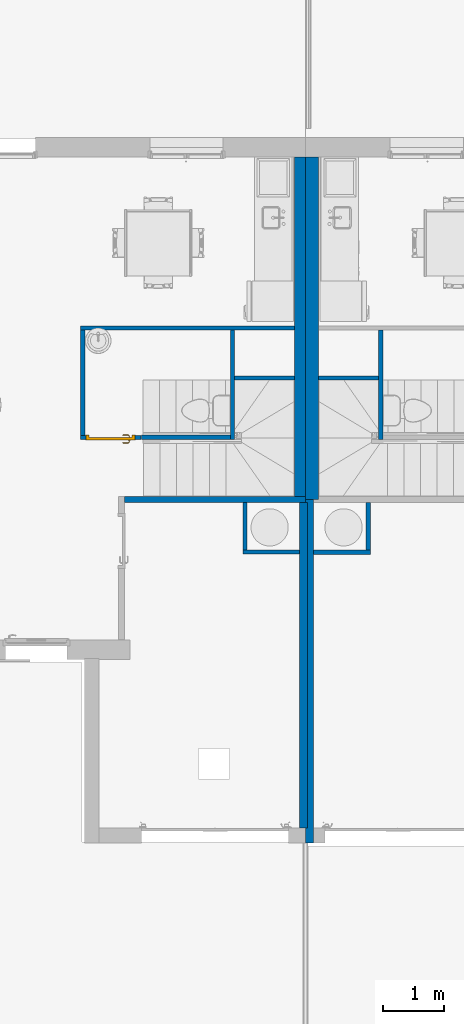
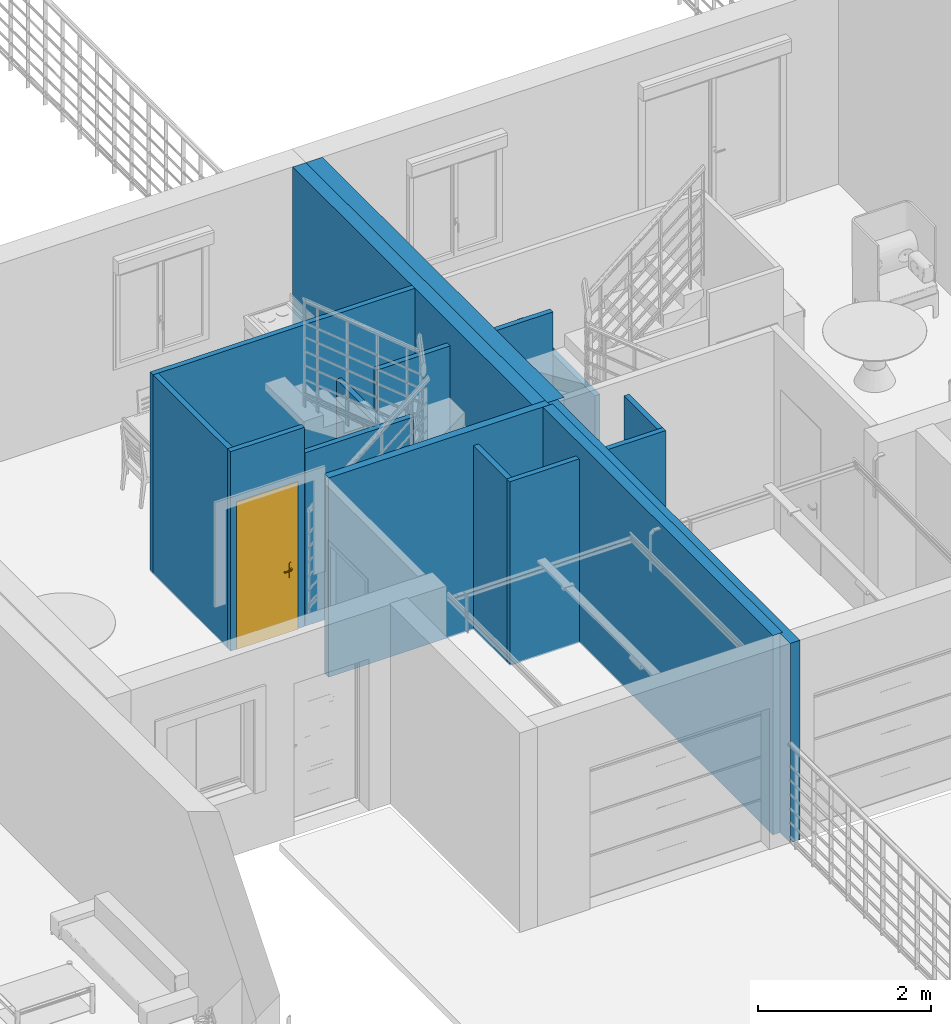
# One storey, part 17 of 30: 17 walls, 1 door, 1 opening.
"""IFC2X3 building model written with IfcOpenShell, lengths in metres."""

from ifc_helpers import new_model, entity, si_unit, converted_unit, derived_unit, direction, frame, frame_2d, origin, place, context, subcontext, project, spatial, polyline, rectangle, outline, extrude, faceted_brep, source, transform, mapped, material, material_list, layer, layer_set, layer_usage, type_object, type_shapes, element, fill, save


model = new_model("IFC2X3")

# Units and contexts
model_context = context("Model", 3, precision=1e-05, world=origin(), true_north=direction((6.12303176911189e-17, 1.0)))
body_context = subcontext(model_context, "Body", "Model", "MODEL_VIEW")
ifc_project = project(units=[si_unit("LENGTHUNIT", "METRE"), si_unit("AREAUNIT", "SQUARE_METRE"), si_unit("VOLUMEUNIT", "CUBIC_METRE"), converted_unit("PLANEANGLEUNIT", "DEGREE", entity("IfcRatioMeasure", 0.0174532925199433), si_unit("PLANEANGLEUNIT", "RADIAN"), dimensions=[0, 0, 0, 0, 0, 0, 0]), si_unit("MASSUNIT", "GRAM", prefix="KILO"), derived_unit("MASSDENSITYUNIT", [(si_unit("MASSUNIT", "GRAM", prefix="KILO"), 1), (si_unit("LENGTHUNIT", "METRE"), -3)]), si_unit("TIMEUNIT", "SECOND"), si_unit("FREQUENCYUNIT", "HERTZ"), si_unit("THERMODYNAMICTEMPERATUREUNIT", "DEGREE_CELSIUS"), derived_unit("THERMALTRANSMITTANCEUNIT", [(si_unit("MASSUNIT", "GRAM", prefix="KILO"), 1), (si_unit("THERMODYNAMICTEMPERATUREUNIT", "KELVIN"), -1), (si_unit("TIMEUNIT", "SECOND"), -3)]), derived_unit("VOLUMETRICFLOWRATEUNIT", [(si_unit("LENGTHUNIT", "METRE"), 3), (si_unit("TIMEUNIT", "SECOND"), -1)]), si_unit("ELECTRICCURRENTUNIT", "AMPERE"), si_unit("ELECTRICVOLTAGEUNIT", "VOLT"), si_unit("POWERUNIT", "WATT"), si_unit("FORCEUNIT", "NEWTON", prefix="KILO"), si_unit("ILLUMINANCEUNIT", "LUX"), si_unit("LUMINOUSFLUXUNIT", "LUMEN"), si_unit("LUMINOUSINTENSITYUNIT", "CANDELA"), derived_unit("USERDEFINED", [(si_unit("MASSUNIT", "GRAM", prefix="KILO"), -1), (si_unit("LENGTHUNIT", "METRE"), -2), (si_unit("TIMEUNIT", "SECOND"), 3), (si_unit("LUMINOUSFLUXUNIT", "LUMEN"), 1)]), derived_unit("LINEARVELOCITYUNIT", [(si_unit("LENGTHUNIT", "METRE"), 1), (si_unit("TIMEUNIT", "SECOND"), -1)]), si_unit("PRESSUREUNIT", "PASCAL"), derived_unit("USERDEFINED", [(si_unit("LENGTHUNIT", "METRE"), -2), (si_unit("MASSUNIT", "GRAM", prefix="KILO"), 1), (si_unit("TIMEUNIT", "SECOND"), -2)])], contexts=[model_context])

# Site, building, storey
site_placement = place(None, origin())
site = spatial("IfcSite", under=ifc_project, at=site_placement, Name="Surface", CompositionType="ELEMENT")
building_placement = place(site_placement, origin())
building = spatial("IfcBuilding", under=site, at=building_placement, CompositionType="ELEMENT")
storey_placement = place(building_placement, origin())
storey = spatial("IfcBuildingStorey", under=building, at=storey_placement, Name="Plan des fondations  Maisons 1 et 2", CompositionType="ELEMENT", Elevation=0.0)

# Walls
ifc_material_1 = material(Name="Enduit blanc cassé2")
ifc_layer_1 = layer(ifc_material_1, 0.02)
ifc_material_2 = material(Name="Parpaing")
ifc_layer_2 = layer(ifc_material_2, 0.1)
ifc_material_3 = material(Name="Isolant")
ifc_layer_3 = layer(ifc_material_3, 0.1)
ifc_layer_set_1 = layer_set([ifc_layer_1, ifc_layer_2, ifc_layer_3], Name="Mur de base:Ext. Parpaing 10 + Isolant 10 enduit blanc cassé")
ifc_layer_usage_1 = layer_usage(ifc_layer_set_1, "AXIS2", "POSITIVE", -0.11)
wall_type_1 = type_object("IfcWallType", Name="Mur de base:Ext. Parpaing 10 + Isolant 10 enduit blanc cassé", PredefinedType="STANDARD", material=ifc_layer_set_1)
wall_1_placement = place(building_placement, frame((83.8167857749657, 92.1475239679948, 0.0), z_axis=(0.0, 0.0, 1.0), x_axis=(0.0, -1.0, 0.0)))
element("IfcWallStandardCase", 1, at=wall_1_placement, inside=storey, type_object=wall_type_1, material=ifc_layer_usage_1, Name="Mur de base:Ext. Parpaing 10 + Isolant 10 enduit blanc cassé", ObjectType="Mur de base:Ext. Parpaing 10 + Isolant 10 enduit blanc cassé", context=body_context, shape_type="SweptSolid", body=[
    extrude(rectangle(XDim=5.60000000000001, YDim=0.219999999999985, at=frame_2d((2.8, 0.0), x_axis=(-1.0, 0.0))), origin(), (0.0, 0.0, 1.0), 2.82),
])
ifc_layer_usage_2 = layer_usage(ifc_layer_set_1, "AXIS2", "NEGATIVE", 0.11)
wall_2_placement = place(storey_placement, frame((83.6410189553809, 92.1475239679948, 0.0), z_axis=(0.0, 0.0, 1.0), x_axis=(0.0, -1.0, 0.0)))
element("IfcWallStandardCase", 2, at=wall_2_placement, inside=storey, type_object=wall_type_1, material=ifc_layer_usage_2, Name="Mur de base:Ext. Parpaing 10 + Isolant 10 enduit blanc cassé", ObjectType="Mur de base:Ext. Parpaing 10 + Isolant 10 enduit blanc cassé", context=body_context, shape_type="SweptSolid", body=[
    extrude(rectangle(XDim=5.60000000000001, YDim=0.219999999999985, at=frame_2d((2.8, 0.0), x_axis=(-1.0, 0.0))), origin(), (0.0, 0.0, 1.0), 2.82),
])
ifc_material_4 = material(Name="Peinture - Blanc")
ifc_layer_4 = layer(ifc_material_4, 0.1)
ifc_layer_set_2 = layer_set([ifc_layer_4], Name="Mur de base:Int.  Platre 100 mm en blanc 2")
ifc_layer_usage_3 = layer_usage(ifc_layer_set_2, "AXIS2", "POSITIVE", -0.05)
wall_type_2 = type_object("IfcWallType", Name="Mur de base:Int.  Platre 100 mm en blanc 2", PredefinedType="STANDARD", material=ifc_layer_set_2)
wall_3_placement = place(storey_placement, frame((80.7510189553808, 86.5475239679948, 0.0)))
element("IfcWallStandardCase", 3, at=wall_3_placement, inside=storey, type_object=wall_type_2, material=ifc_layer_usage_3, Name="Mur de base:Int.  Platre 100 mm en blanc 2", ObjectType="Mur de base:Int.  Platre 100 mm en blanc 2", context=body_context, shape_type="SweptSolid", body=[
    extrude(outline(polyline([(2.96076681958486, -0.0499999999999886), (2.96076681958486, 0.0), (2.95576681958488, 0.0), (2.95576681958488, 0.050000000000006), (0.0, 0.050000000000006), (0.0, -0.0499999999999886), (1.93500000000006, -0.0499999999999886), (2.00500000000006, -0.0499999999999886), (2.86500000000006, -0.0499999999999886), (2.96076681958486, -0.0499999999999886)])), origin(), (0.0, 0.0, 1.0), 2.82),
])
ifc_layer_5 = layer(ifc_material_1, 0.015)
ifc_layer_6 = layer(ifc_material_2, 0.1)
ifc_layer_7 = layer(ifc_material_1, 0.015)
ifc_layer_set_3 = layer_set([ifc_layer_5, ifc_layer_6, ifc_layer_7], Name="Mur de base:Ext. Parpaing 10 + 2 x 1.5 2")
ifc_layer_usage_4 = layer_usage(ifc_layer_set_3, "AXIS2", "NEGATIVE", 0.065)
wall_type_3 = type_object("IfcWallType", Name="Mur de base:Ext. Parpaing 10 + 2 x 1.5 2", PredefinedType="STANDARD", material=ifc_layer_set_3)
wall_4_placement = place(building_placement, frame((83.7767857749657, 86.5475239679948, 0.0), z_axis=(0.0, 0.0, 1.0), x_axis=(0.0, -1.0, 0.0)))
element("IfcWallStandardCase", 4, at=wall_4_placement, inside=storey, type_object=wall_type_3, material=ifc_layer_usage_4, Name="Mur de base:Ext. Parpaing 10 + 2 x 1.5 2", ObjectType="Mur de base:Ext. Parpaing 10 + 2 x 1.5 2", context=body_context, shape_type="SweptSolid", body=[
    extrude(rectangle(XDim=5.61999999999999, YDim=0.130000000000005, at=frame_2d((2.80999999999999, 0.0), x_axis=(-1.0, 0.0))), origin(), (0.0, 0.0, 1.0), 2.82),
])
ifc_layer_usage_5 = layer_usage(ifc_layer_set_3, "AXIS2", "POSITIVE", -0.065)
wall_5_placement = place(storey_placement, frame((83.6810189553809, 86.4975239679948, 0.0), z_axis=(0.0, 0.0, 1.0), x_axis=(0.0, -1.0, 0.0)))
element("IfcWallStandardCase", 5, at=wall_5_placement, inside=storey, type_object=wall_type_3, material=ifc_layer_usage_5, Name="Mur de base:Ext. Parpaing 10 + 2 x 1.5 2", ObjectType="Mur de base:Ext. Parpaing 10 + 2 x 1.5 2", context=body_context, shape_type="SweptSolid", body=[
    extrude(rectangle(XDim=5.32999999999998, YDim=0.130000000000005, at=frame_2d((2.66499999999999, 0.0), x_axis=(-1.0, 0.0))), origin(), (0.0, 0.0, 1.0), 2.82),
])
ifc_layer_8 = layer(ifc_material_4, 0.07)
ifc_layer_set_4 = layer_set([ifc_layer_8], Name="Mur de base:Int.  Platre 70 mm en blanc")
ifc_layer_usage_6 = layer_usage(ifc_layer_set_4, "AXIS2", "NEGATIVE", 0.035)
wall_type_4 = type_object("IfcWallType", Name="Mur de base:Int.  Platre 70 mm en blanc", PredefinedType="STANDARD", material=ifc_layer_set_4)
wall_6_placement = place(storey_placement, frame((84.9417857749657, 87.5275239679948, 0.0), z_axis=(0.0, 0.0, 1.0), x_axis=(0.0, 1.0, 0.0)))
element("IfcWallStandardCase", 6, at=wall_6_placement, inside=storey, type_object=wall_type_4, material=ifc_layer_usage_6, Name="Mur de base:Int.  Platre 70 mm en blanc", ObjectType="Mur de base:Int.  Platre 70 mm en blanc", context=body_context, shape_type="SweptSolid", body=[
    extrude(rectangle(XDim=1.78999999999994, YDim=0.0699999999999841, at=frame_2d((0.89499999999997, 0.0), x_axis=(-1.0, 0.0))), origin(), (0.0, 0.0, 1.0), 1.9),
])
ifc_layer_usage_7 = layer_usage(ifc_layer_set_4, "AXIS2", "NEGATIVE", 0.035)
wall_7_placement = place(building_placement, frame((84.9067857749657, 88.5346045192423, 0.0), z_axis=(0.0, 0.0, 1.0), x_axis=(-1.0, 0.0, 0.0)))
element("IfcWallStandardCase", 7, at=wall_7_placement, inside=storey, type_object=wall_type_4, material=ifc_layer_usage_7, Name="Mur de base:Int.  Platre 70 mm en blanc", ObjectType="Mur de base:Int.  Platre 70 mm en blanc", context=body_context, shape_type="SweptSolid", body=[
    extrude(rectangle(XDim=0.980000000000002, YDim=0.0699999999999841, at=frame_2d((0.490000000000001, 0.0), x_axis=(-1.0, 0.0))), origin(), (0.0, 0.0, 1.0), 2.5),
])
ifc_layer_usage_8 = layer_usage(ifc_layer_set_4, "AXIS2", "NEGATIVE", 0.035)
wall_8_placement = place(building_placement, frame((83.8417857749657, 85.6825239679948, 0.0)))
element("IfcWallStandardCase", 8, at=wall_8_placement, inside=storey, type_object=wall_type_4, material=ifc_layer_usage_8, Name="Mur de base:Int.  Platre 70 mm en blanc", ObjectType="Mur de base:Int.  Platre 70 mm en blanc", context=body_context, shape_type="SweptSolid", body=[
    extrude(rectangle(XDim=0.929999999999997, YDim=0.0699999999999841, at=frame_2d((0.464999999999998, 0.0), x_axis=(-1.0, 0.0))), origin(), (0.0, 0.0, 1.0), 2.6),
])
ifc_layer_usage_9 = layer_usage(ifc_layer_set_4, "AXIS2", "NEGATIVE", 0.035)
wall_9_placement = place(building_placement, frame((84.7367857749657, 85.7175239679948, 0.0), z_axis=(0.0, 0.0, 1.0), x_axis=(0.0, 1.0, 0.0)))
element("IfcWallStandardCase", 9, at=wall_9_placement, inside=storey, type_object=wall_type_4, material=ifc_layer_usage_9, Name="Mur de base:Int.  Platre 70 mm en blanc", ObjectType="Mur de base:Int.  Platre 70 mm en blanc", context=body_context, shape_type="SweptSolid", body=[
    extrude(rectangle(XDim=0.779999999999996, YDim=0.0699999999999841, at=frame_2d((0.389999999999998, 0.0), x_axis=(-1.0, 0.0))), origin(), (0.0, 0.0, 1.0), 2.6),
])
ifc_layer_usage_10 = layer_usage(ifc_layer_set_4, "AXIS2", "POSITIVE", -0.035)
wall_10_placement = place(storey_placement, frame((83.5310189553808, 89.3525239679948, 0.0), z_axis=(0.0, 0.0, 1.0), x_axis=(-1.0, 0.0, 0.0)))
element("IfcWallStandardCase", 10, at=wall_10_placement, inside=storey, type_object=wall_type_4, material=ifc_layer_usage_10, Name="Mur de base:Int.  Platre 70 mm en blanc", ObjectType="Mur de base:Int.  Platre 70 mm en blanc", context=body_context, shape_type="SweptSolid", body=[
    extrude(rectangle(XDim=3.50211659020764, YDim=0.0699999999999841, at=frame_2d((1.75105829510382, -7.45931094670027e-16), x_axis=(-1.0, 0.0))), origin(), (0.0, 0.0, 1.0), 2.82),
])
ifc_layer_usage_11 = layer_usage(ifc_layer_set_4, "AXIS2", "POSITIVE", -0.035)
wall_11_placement = place(storey_placement, frame((80.0639023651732, 87.5943952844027, 0.0), z_axis=(0.0, 0.0, 1.0), x_axis=(0.0, 1.0, 0.0)))
element("IfcWallStandardCase", 11, at=wall_11_placement, inside=storey, type_object=wall_type_4, material=ifc_layer_usage_11, Name="Mur de base:Int.  Platre 70 mm en blanc", ObjectType="Mur de base:Int.  Platre 70 mm en blanc", context=body_context, shape_type="SweptSolid", body=[
    extrude(rectangle(XDim=1.72312868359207, YDim=0.0699999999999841, at=frame_2d((0.861564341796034, 0.0), x_axis=(-1.0, 0.0))), origin(), (0.0, 0.0, 1.0), 2.82),
])
ifc_layer_usage_12 = layer_usage(ifc_layer_set_4, "AXIS2", "POSITIVE", -0.035)
wall_12_placement = place(storey_placement, frame((82.4810189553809, 87.5625239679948, 0.0), z_axis=(0.0, 0.0, 1.0), x_axis=(-1.0, 0.0, 0.0)))
element("IfcWallStandardCase", 12, at=wall_12_placement, inside=storey, type_object=wall_type_4, material=ifc_layer_usage_12, Name="Mur de base:Int.  Platre 70 mm en blanc", ObjectType="Mur de base:Int.  Platre 70 mm en blanc", context=body_context, shape_type="SweptSolid", body=[
    extrude(rectangle(XDim=1.45171659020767, YDim=0.0699999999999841, at=frame_2d((0.725858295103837, -3.03576608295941e-15), x_axis=(-1.0, 0.0))), origin(), (0.0, 0.0, 1.0), 2.45350535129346),
])
ifc_layer_usage_13 = layer_usage(ifc_layer_set_4, "AXIS2", "POSITIVE", -0.035)
wall_13_placement = place(storey_placement, frame((82.5160189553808, 87.5275239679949, 0.0), z_axis=(0.0, 0.0, 1.0), x_axis=(0.0, 1.0, 0.0)))
element("IfcWallStandardCase", 13, at=wall_13_placement, inside=storey, type_object=wall_type_4, material=ifc_layer_usage_13, Name="Mur de base:Int.  Platre 70 mm en blanc", ObjectType="Mur de base:Int.  Platre 70 mm en blanc", context=body_context, shape_type="SweptSolid", body=[
    extrude(rectangle(XDim=1.78999999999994, YDim=0.0699999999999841, at=frame_2d((0.89499999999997, 0.0), x_axis=(-1.0, 0.0))), origin(), (0.0, 0.0, 1.0), 1.9),
])

# Wall, opening, door
ifc_layer_usage_14 = layer_usage(ifc_layer_set_4, "AXIS2", "POSITIVE", -0.035)
wall_14_placement = place(storey_placement, frame((81.0193023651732, 87.5593952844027, 0.0), z_axis=(0.0, 0.0, 1.0), x_axis=(-1.0, 0.0, 0.0)))
wall_14 = element("IfcWallStandardCase", 14, at=wall_14_placement, inside=storey, type_object=wall_type_4, material=ifc_layer_usage_14, Name="Mur de base:Int.  Platre 70 mm en blanc", ObjectType="Mur de base:Int.  Platre 70 mm en blanc", context=body_context, shape_type="SweptSolid", body=[
    extrude(rectangle(XDim=0.990399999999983, YDim=0.0699999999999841, at=frame_2d((0.495199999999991, -2.43208231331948e-15), x_axis=(-1.0, 0.0))), origin(), (0.0, 0.0, 1.0), 2.82),
])
opening_placement = place(wall_14_placement, frame((0.100399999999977, -0.0350000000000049, 0.0)))
opening = element("IfcOpeningElement", 15, at=opening_placement, cuts=wall_14, Name="FR_Simple (R):73 x 204 - (70):1", ObjectType="Opening", context=body_context, shape_type="SweptSolid", body=[
    extrude(rectangle(XDim=2.075, YDim=0.799999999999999, at=frame_2d((1.0375, 0.4), x_axis=(1.0, 0.0))), frame((0.0, 0.0, 0.0), z_axis=(0.0, 1.0, 0.0), x_axis=(0.0, 0.0, 1.0)), (0.0, 0.0, 1.0), 0.07),
])
ifc_material_5 = material(Name="Poignée Porte")
ifc_material_6 = material(Name="Dormants Portes")
ifc_material_7 = material(Name="Panneaux Portes")
ifc_material_list_1 = material_list([ifc_material_5, ifc_material_6, ifc_material_7])
ifc_material_list_2 = material_list([ifc_material_5, ifc_material_6, ifc_material_7])
door_style = type_object("IfcDoorStyle", Name="73 x 204 - (70)", ConstructionType="NOTDEFINED", OperationType="SINGLE_SWING_RIGHT", ParameterTakesPrecedence=False, Sizeable=False, material=ifc_material_list_2)
shared_shape = source(origin(), body_context, "Body", "Brep", [
    faceted_brep([(0.710000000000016, -0.0130000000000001, 0.764641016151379), (0.720352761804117, -0.0130000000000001, 0.766003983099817), (0.730000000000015, -0.0130000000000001, 0.770000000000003), (0.730000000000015, -0.0130000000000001, 0.980000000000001), (0.720352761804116, -0.0130000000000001, 0.983996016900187), (0.710000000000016, -0.0130000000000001, 0.985358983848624), (0.699647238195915, -0.0130000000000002, 0.983996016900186), (0.690000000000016, -0.0130000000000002, 0.980000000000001), (0.690000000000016, -0.0130000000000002, 0.770000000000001), (0.699647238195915, -0.0130000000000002, 0.766003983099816), (0.730000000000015, -0.00800000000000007, 0.980000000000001), (0.730000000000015, -0.00800000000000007, 0.770000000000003), (0.720352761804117, -0.0080000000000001, 0.766003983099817), (0.710000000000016, -0.00800000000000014, 0.764641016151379), (0.699647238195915, -0.00800000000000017, 0.766003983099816), (0.690000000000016, -0.00800000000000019, 0.770000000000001), (0.690000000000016, -0.00800000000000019, 0.980000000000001), (0.699647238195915, -0.00800000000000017, 0.983996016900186), (0.710000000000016, -0.00800000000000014, 0.985358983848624), (0.720352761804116, -0.0080000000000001, 0.983996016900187)], [[[0, 1, 2, 3, 4, 5, 6, 7, 8, 9]], [[10, 11, 12, 13, 14, 15, 16, 17, 18, 19]], [[1, 12, 11, 2]], [[0, 13, 12, 1]], [[9, 14, 13, 0]], [[9, 8, 15, 14]], [[15, 8, 7, 16]], [[6, 17, 16, 7]], [[5, 18, 17, 6]], [[4, 19, 18, 5]], [[4, 3, 10, 19]], [[10, 3, 2, 11]]]),
    faceted_brep([(0.730000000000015, 0.0319999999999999, 0.770000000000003), (0.730000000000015, 0.0319999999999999, 0.980000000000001), (0.720352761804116, 0.0319999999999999, 0.983996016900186), (0.710000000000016, 0.0319999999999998, 0.985358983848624), (0.699647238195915, 0.0319999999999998, 0.983996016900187), (0.690000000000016, 0.0319999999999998, 0.980000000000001), (0.690000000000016, 0.0319999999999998, 0.770000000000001), (0.699647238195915, 0.0319999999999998, 0.766003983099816), (0.710000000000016, 0.0319999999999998, 0.764641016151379), (0.720352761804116, 0.0319999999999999, 0.766003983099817), (0.710000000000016, 0.0369999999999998, 0.985358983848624), (0.720352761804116, 0.0369999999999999, 0.983996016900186), (0.730000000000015, 0.0369999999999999, 0.980000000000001), (0.730000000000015, 0.0369999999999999, 0.770000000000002), (0.720352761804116, 0.0369999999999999, 0.766003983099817), (0.710000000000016, 0.0369999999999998, 0.764641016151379), (0.699647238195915, 0.0369999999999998, 0.766003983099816), (0.690000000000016, 0.0369999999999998, 0.770000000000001), (0.690000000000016, 0.0369999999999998, 0.980000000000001), (0.699647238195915, 0.0369999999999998, 0.983996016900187)], [[[0, 1, 2, 3, 4, 5, 6, 7, 8, 9]], [[10, 11, 12, 13, 14, 15, 16, 17, 18, 19]], [[4, 19, 18, 5]], [[3, 10, 19, 4]], [[2, 11, 10, 3]], [[2, 1, 12, 11]], [[12, 1, 0, 13]], [[9, 14, 13, 0]], [[8, 15, 14, 9]], [[7, 16, 15, 8]], [[7, 6, 17, 16]], [[17, 6, 5, 18]]]),
    faceted_brep([(0.707974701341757, -0.0130000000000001, 0.907780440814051), (0.712025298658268, -0.0130000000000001, 0.907780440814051), (0.716000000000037, -0.0130000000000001, 0.906999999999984), (0.716000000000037, -0.0130000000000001, 0.892999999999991), (0.712025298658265, -0.0130000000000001, 0.892219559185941), (0.707974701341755, -0.0130000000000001, 0.89221955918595), (0.703999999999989, -0.0130000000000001, 0.893000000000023), (0.703999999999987, -0.0130000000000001, 0.90699999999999), (0.712025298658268, -0.0390045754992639, 0.907780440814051), (0.716000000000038, -0.0406509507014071, 0.906999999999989), (0.707974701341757, -0.0373267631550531, 0.907780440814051), (0.694298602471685, -0.0510028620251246, 0.907780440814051), (0.695976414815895, -0.0550534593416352, 0.907780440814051), (0.609142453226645, -0.0550534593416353, 0.90778044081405), (0.610820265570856, -0.0510028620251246, 0.90778044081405), (0.604342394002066, -0.0445249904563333, 0.90778044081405), (0.601478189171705, -0.0473891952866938, 0.90778044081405), (0.703999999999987, -0.0356803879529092, 0.90699999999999), (0.703999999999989, -0.0356803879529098, 0.893000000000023), (0.707974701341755, -0.0373267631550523, 0.89221955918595), (0.712025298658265, -0.0390045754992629, 0.89221955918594), (0.695976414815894, -0.0550534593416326, 0.89221955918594), (0.694298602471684, -0.0510028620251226, 0.89221955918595), (0.610820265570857, -0.0510028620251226, 0.89221955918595), (0.609142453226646, -0.0550534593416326, 0.89221955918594), (0.601478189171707, -0.0473891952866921, 0.89221955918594), (0.604342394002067, -0.044524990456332, 0.89221955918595), (0.716000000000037, -0.0406509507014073, 0.892999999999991), (0.69762279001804, -0.059028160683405, 0.906999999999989), (0.692652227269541, -0.0470281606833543, 0.90699999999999), (0.692652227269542, -0.0470281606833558, 0.893000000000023), (0.697622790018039, -0.0590281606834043, 0.892999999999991), (0.65255943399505, -0.053182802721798, 0.907878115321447), (0.657692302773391, -0.0590281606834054, 0.906999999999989), (0.607496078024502, -0.0590281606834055, 0.906999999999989), (0.652559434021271, -0.0470281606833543, 0.90699999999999), (0.612466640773, -0.0470281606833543, 0.906999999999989), (0.652559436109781, -0.0470281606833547, 0.893000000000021), (0.612466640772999, -0.0470281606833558, 0.893000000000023), (0.652559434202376, -0.0531828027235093, 0.892121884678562), (0.647426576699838, -0.0590281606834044, 0.892999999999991), (0.607496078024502, -0.0590281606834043, 0.892999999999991), (0.607152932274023, -0.0417144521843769, 0.89300000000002), (0.598667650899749, -0.0501997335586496, 0.892999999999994), (0.598667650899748, -0.0501997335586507, 0.906999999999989), (0.607152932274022, -0.0417144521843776, 0.906999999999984)], [[[0, 1, 2, 3, 4, 5, 6, 7]], [[2, 1, 8, 9]], [[1, 0, 10, 11, 12, 8]], [[13, 14, 15, 16]], [[0, 7, 17, 10]], [[18, 17, 7, 6]], [[5, 19, 18, 6]], [[5, 4, 20, 21, 22, 19]], [[23, 24, 25, 26]], [[3, 27, 20, 4]], [[9, 27, 3, 2]], [[9, 8, 12, 28]], [[10, 17, 29, 11]], [[30, 29, 17, 18]], [[18, 19, 22, 30]], [[20, 27, 31, 21]], [[28, 31, 27, 9]], [[12, 32, 33]], [[13, 33, 32]], [[33, 28, 12]], [[33, 13, 34]], [[11, 35, 32]], [[32, 12, 11]], [[32, 35, 14]], [[35, 11, 29]], [[36, 14, 35]], [[13, 32, 14]], [[30, 37, 38, 36, 35, 29]], [[39, 37, 22]], [[40, 41, 24]], [[40, 21, 31]], [[39, 21, 40]], [[23, 37, 39]], [[39, 24, 23]], [[30, 22, 37]], [[37, 23, 38]], [[21, 39, 22]], [[24, 39, 40]], [[31, 28, 33, 34, 41, 40]], [[42, 26, 25, 43, 44, 16, 15, 45]], [[13, 16, 44, 34]], [[36, 45, 15, 14]], [[42, 45, 36, 38]], [[38, 23, 26, 42]], [[24, 41, 43, 25]], [[44, 43, 41, 34]]]),
    faceted_brep([(0.712025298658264, 0.0369999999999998, 0.907780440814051), (0.707974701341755, 0.0369999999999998, 0.907780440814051), (0.703999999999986, 0.0369999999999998, 0.90699999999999), (0.703999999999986, 0.0369999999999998, 0.89300000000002), (0.707974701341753, 0.0369999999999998, 0.892219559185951), (0.712025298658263, 0.0369999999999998, 0.892219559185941), (0.716000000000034, 0.0369999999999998, 0.892999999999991), (0.716000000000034, 0.0369999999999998, 0.90699999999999), (0.703999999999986, 0.0594852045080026, 0.90699999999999), (0.703999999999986, 0.0594852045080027, 0.89300000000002), (0.707974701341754, 0.0611315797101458, 0.907780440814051), (0.712025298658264, 0.0628093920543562, 0.907780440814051), (0.695838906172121, 0.0789957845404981, 0.907780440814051), (0.69416109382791, 0.0749451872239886, 0.907780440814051), (0.610793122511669, 0.0749451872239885, 0.907780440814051), (0.609115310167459, 0.0789957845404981, 0.907780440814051), (0.601451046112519, 0.071331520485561, 0.907780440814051), (0.604315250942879, 0.0684673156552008, 0.907780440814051), (0.716000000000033, 0.0644557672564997, 0.90699999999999), (0.716000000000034, 0.0644557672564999, 0.892999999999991), (0.712025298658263, 0.0628093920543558, 0.892219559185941), (0.707974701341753, 0.0611315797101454, 0.892219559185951), (0.69416109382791, 0.0749451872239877, 0.892219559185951), (0.69583890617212, 0.0789957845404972, 0.892219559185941), (0.609115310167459, 0.0789957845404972, 0.89221955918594), (0.610793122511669, 0.0749451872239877, 0.89221955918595), (0.60431525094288, 0.0684673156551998, 0.89221955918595), (0.60145104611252, 0.07133152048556, 0.89221955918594), (0.692514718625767, 0.07097048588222, 0.89300000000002), (0.692514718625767, 0.0709704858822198, 0.90699999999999), (0.697485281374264, 0.0829704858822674, 0.90699999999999), (0.697485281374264, 0.082970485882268, 0.892999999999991), (0.652477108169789, 0.0709704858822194, 0.90699999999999), (0.612439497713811, 0.0709704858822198, 0.90699999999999), (0.612439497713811, 0.0709704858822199, 0.89300000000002), (0.652477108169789, 0.0709704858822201, 0.89300000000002), (0.652477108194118, 0.0771249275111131, 0.907878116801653), (0.647399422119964, 0.0829704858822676, 0.90699999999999), (0.607468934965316, 0.0829704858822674, 0.90699999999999), (0.657554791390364, 0.0829704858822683, 0.892999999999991), (0.607468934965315, 0.082970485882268, 0.892999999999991), (0.65247710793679, 0.0771249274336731, 0.892121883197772), (0.598640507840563, 0.0741420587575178, 0.90699999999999), (0.598640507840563, 0.074142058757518, 0.892999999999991), (0.607125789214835, 0.0656567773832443, 0.89300000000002), (0.607125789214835, 0.0656567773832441, 0.90699999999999)], [[[0, 1, 2, 3, 4, 5, 6, 7]], [[8, 9, 3, 2]], [[1, 10, 8, 2]], [[1, 0, 11, 12, 13, 10]], [[14, 15, 16, 17]], [[7, 18, 11, 0]], [[18, 7, 6, 19]], [[6, 5, 20, 19]], [[5, 4, 21, 22, 23, 20]], [[24, 25, 26, 27]], [[4, 3, 9, 21]], [[28, 9, 8, 29]], [[8, 10, 13, 29]], [[18, 30, 12, 11]], [[31, 30, 18, 19]], [[19, 20, 23, 31]], [[21, 9, 28, 22]], [[28, 29, 32, 33, 34, 35]], [[36, 32, 13]], [[37, 38, 15]], [[37, 12, 30]], [[36, 12, 37]], [[14, 32, 36]], [[36, 15, 14]], [[29, 13, 32]], [[32, 14, 33]], [[12, 36, 13]], [[15, 36, 37]], [[30, 31, 39, 40, 38, 37]], [[23, 41, 39]], [[24, 39, 41]], [[39, 31, 23]], [[39, 24, 40]], [[22, 35, 41]], [[41, 23, 22]], [[41, 35, 25]], [[35, 22, 28]], [[34, 25, 35]], [[24, 41, 25]], [[17, 16, 42, 43, 27, 26, 44, 45]], [[44, 34, 33, 45]], [[33, 14, 17, 45]], [[15, 38, 42, 16]], [[42, 38, 40, 43]], [[24, 27, 43, 40]], [[34, 44, 26, 25]]]),
    faceted_brep([(0.800000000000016, 0.0, 0.0), (0.810000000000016, 0.0, 0.0), (0.810000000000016, -0.00799999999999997, 0.0), (0.765000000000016, -0.00799999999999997, 0.0), (0.765000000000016, 0.032, 0.0), (0.750000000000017, 0.032, 0.0), (0.750000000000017, 0.0780000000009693, 0.0), (0.810000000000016, 0.0780000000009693, 0.0), (0.810000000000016, 0.0700000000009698, 0.0), (0.800000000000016, 0.0700000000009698, 0.0), (0.800000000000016, 0.0700000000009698, 2.075), (0.800000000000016, 0.0, 2.075), (0.810000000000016, 0.0700000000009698, 2.085), (-0.00999999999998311, 0.0700000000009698, 2.085), (-0.00999999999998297, 0.0700000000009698, 0.0), (0.0, 0.0700000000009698, 0.0), (0.0, 0.0700000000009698, 2.075), (0.810000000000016, 0.0780000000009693, 2.085), (0.750000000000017, 0.0780000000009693, 2.025), (0.0500000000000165, 0.0780000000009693, 2.025), (0.0500000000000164, 0.0780000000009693, 0.0), (-0.00999999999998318, 0.0780000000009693, 0.0), (-0.00999999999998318, 0.0780000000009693, 2.085), (0.750000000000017, 0.032, 2.025), (0.765000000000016, 0.032, 2.04), (0.0350000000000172, 0.032, 2.04), (0.0350000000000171, 0.032, 0.0), (0.0500000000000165, 0.032, 0.0), (0.0500000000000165, 0.032, 2.025), (0.765000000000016, -0.00799999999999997, 2.04), (0.810000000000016, -0.00799999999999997, 2.085), (-0.00999999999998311, -0.00799999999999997, 2.085), (-0.0099999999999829, -0.00799999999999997, 0.0), (0.0350000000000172, -0.00799999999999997, 0.0), (0.0350000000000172, -0.00799999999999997, 2.04), (0.810000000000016, 0.0, 2.085), (0.0, 0.0, 2.075), (0.0, 0.0, 0.0), (-0.00999999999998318, 0.0, 0.0), (-0.00999999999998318, 0.0, 2.085)], [[[0, 1, 2, 3, 4, 5, 6, 7, 8, 9]], [[9, 10, 11, 0]], [[8, 12, 13, 14, 15, 16, 10, 9]], [[7, 17, 12, 8]], [[6, 18, 19, 20, 21, 22, 17, 7]], [[5, 23, 18, 6]], [[4, 24, 25, 26, 27, 28, 23, 5]], [[3, 29, 24, 4]], [[2, 30, 31, 32, 33, 34, 29, 3]], [[1, 35, 30, 2]], [[0, 11, 36, 37, 38, 39, 35, 1]], [[10, 16, 36, 11]], [[17, 22, 13, 12]], [[23, 28, 19, 18]], [[29, 34, 25, 24]], [[35, 39, 31, 30]], [[37, 15, 14, 21, 20, 27, 26, 33, 32, 38]], [[16, 15, 37, 36]], [[22, 21, 14, 13]], [[28, 27, 20, 19]], [[34, 33, 26, 25]], [[39, 38, 32, 31]]]),
    faceted_brep([(0.765000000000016, -0.00799999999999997, 2.04), (0.0350000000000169, -0.00799999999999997, 2.04), (0.0350000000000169, -0.00799999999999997, 0.0), (0.765000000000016, -0.00799999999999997, 0.0), (0.765000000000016, 0.032, 2.04), (0.765000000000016, 0.032, 0.0), (0.0350000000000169, 0.032, 0.0), (0.0350000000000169, 0.032, 2.04)], [[[0, 1, 2, 3]], [[4, 5, 6, 7]], [[3, 5, 4, 0]], [[2, 6, 5, 3]], [[1, 7, 6, 2]], [[0, 4, 7, 1]]]),
])
type_shapes(door_style, [shared_shape])
door_placement = place(opening_placement, frame((0.800000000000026, 0.0699999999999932, 0.0), z_axis=(0.0, 0.0, 1.0), x_axis=(-1.0, 0.0, 0.0)))
door = element("IfcDoor", 16, at=door_placement, inside=storey, type_object=door_style, material=ifc_material_list_1, Name="FR_Simple (R):73 x 204 - (70)", ObjectType="FR_Simple (R):73 x 204 - (70)", OverallHeight=2.075, OverallWidth=0.800000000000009, context=body_context, shape_type="MappedRepresentation", body=[
    mapped(shared_shape, transform((0.0, 0.0, 0.0), scale=1.0)),
])
fill(opening, door)

# Walls
ifc_layer_usage_15 = layer_usage(ifc_layer_set_4, "AXIS2", "POSITIVE", -0.035)
wall_15_placement = place(storey_placement, frame((82.5510189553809, 88.5346045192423, 0.0)))
element("IfcWallStandardCase", 17, at=wall_15_placement, inside=storey, type_object=wall_type_4, material=ifc_layer_usage_15, Name="Mur de base:Int.  Platre 70 mm en blanc", ObjectType="Mur de base:Int.  Platre 70 mm en blanc", context=body_context, shape_type="SweptSolid", body=[
    extrude(rectangle(XDim=0.979999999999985, YDim=0.0699999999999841, at=frame_2d((0.489999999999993, 0.0), x_axis=(-1.0, 0.0))), origin(), (0.0, 0.0, 1.0), 2.5),
])
ifc_layer_usage_16 = layer_usage(ifc_layer_set_4, "AXIS2", "POSITIVE", -0.035)
wall_16_placement = place(storey_placement, frame((83.6160189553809, 85.6875239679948, 0.0), z_axis=(0.0, 0.0, 1.0), x_axis=(-1.0, 0.0, 0.0)))
element("IfcWallStandardCase", 18, at=wall_16_placement, inside=storey, type_object=wall_type_4, material=ifc_layer_usage_16, Name="Mur de base:Int.  Platre 70 mm en blanc", ObjectType="Mur de base:Int.  Platre 70 mm en blanc", context=body_context, shape_type="SweptSolid", body=[
    extrude(rectangle(XDim=0.929999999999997, YDim=0.0699999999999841, at=frame_2d((0.464999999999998, 0.0), x_axis=(-1.0, 0.0))), origin(), (0.0, 0.0, 1.0), 2.6),
])
ifc_layer_usage_17 = layer_usage(ifc_layer_set_4, "AXIS2", "POSITIVE", -0.035)
wall_17_placement = place(storey_placement, frame((82.7210189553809, 85.7225239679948, 0.0), z_axis=(0.0, 0.0, 1.0), x_axis=(0.0, 1.0, 0.0)))
element("IfcWallStandardCase", 19, at=wall_17_placement, inside=storey, type_object=wall_type_4, material=ifc_layer_usage_17, Name="Mur de base:Int.  Platre 70 mm en blanc", ObjectType="Mur de base:Int.  Platre 70 mm en blanc", context=body_context, shape_type="SweptSolid", body=[
    extrude(rectangle(XDim=0.774999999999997, YDim=0.0699999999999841, at=frame_2d((0.387499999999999, 0.0), x_axis=(-1.0, 0.0))), origin(), (0.0, 0.0, 1.0), 2.6),
])

save(model, "model.ifc")
